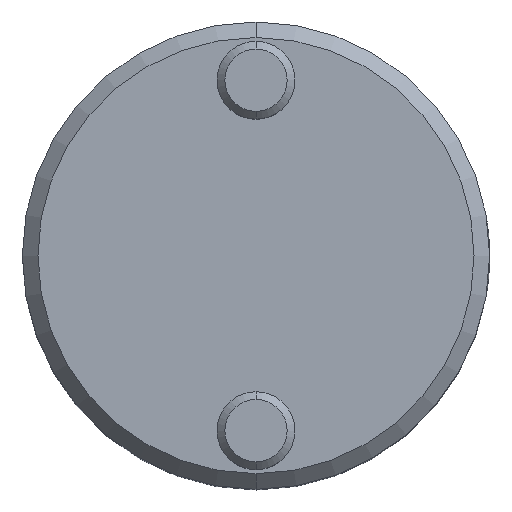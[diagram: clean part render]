
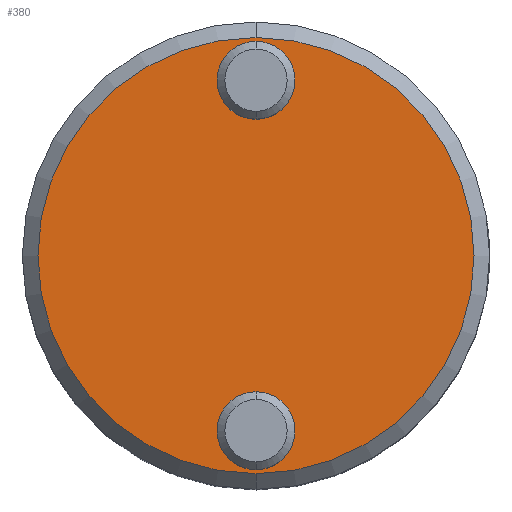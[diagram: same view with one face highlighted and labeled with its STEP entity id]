
A CAD part, top view. The second image highlights one B-rep face of the part: STEP entity #380.
In plain terms, the highlighted planar face has unit normal (0, 0, 1).
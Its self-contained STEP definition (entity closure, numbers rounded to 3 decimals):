
#1=CARTESIAN_POINT('',(0.,0.,0.));
#2=DIRECTION('',(0.,0.,1.));
#3=DIRECTION('',(0.,1.,0.));
#4=AXIS2_PLACEMENT_3D('',#1,#2,#3);
#6=CARTESIAN_POINT('',(0.,0.,
0.));
#7=DIRECTION('',(0.,0.,1.));
#8=DIRECTION('',(0.,-1.,0.));
#9=AXIS2_PLACEMENT_3D('',#6,#7,#8);
#11=CARTESIAN_POINT('',(0.,11.25,0.));
#12=DIRECTION('',(0.,0.,1.));
#13=DIRECTION('',(0.,1.,0.));
#14=AXIS2_PLACEMENT_3D('',#11,#12,#13);
#16=CARTESIAN_POINT('',(0.,11.25,0.));
#17=DIRECTION('',(0.,0.,1.));
#18=DIRECTION('',(0.,-1.,0.));
#19=AXIS2_PLACEMENT_3D('',#16,#17,#18);
#21=CARTESIAN_POINT('',(0.,-11.25,0.));
#22=DIRECTION('',(0.,0.,1.));
#23=DIRECTION('',(0.,1.,0.));
#24=AXIS2_PLACEMENT_3D('',#21,#22,#23);
#26=CARTESIAN_POINT('',(0.,-11.25,0.));
#27=DIRECTION('',(0.,0.,1.));
#28=DIRECTION('',(0.,-1.,0.));
#29=AXIS2_PLACEMENT_3D('',#26,#27,#28);
#307=CARTESIAN_POINT('',(0.,14.,0.));
#308=CARTESIAN_POINT('',(0.,-14.,0.));
#309=VERTEX_POINT('',#307);
#310=VERTEX_POINT('',#308);
#333=CARTESIAN_POINT('',(0.,13.75,0.));
#334=CARTESIAN_POINT('',(0.,8.75,0.));
#335=VERTEX_POINT('',#333);
#336=VERTEX_POINT('',#334);
#337=CARTESIAN_POINT('',(0.,-8.75,0.));
#338=CARTESIAN_POINT('',(0.,-13.75,0.));
#339=VERTEX_POINT('',#337);
#340=VERTEX_POINT('',#338);
#357=CARTESIAN_POINT('',(0.,0.,0.));
#358=DIRECTION('',(0.,0.,-1.));
#359=DIRECTION('',(0.,-1.,0.));
#360=AXIS2_PLACEMENT_3D('',#357,#358,#359);
#361=PLANE('',#360);
#363=ORIENTED_EDGE('',*,*,#362,.F.);
#365=ORIENTED_EDGE('',*,*,#364,.F.);
#366=EDGE_LOOP('',(#363,#365));
#367=FACE_OUTER_BOUND('',#366,.F.);
#369=ORIENTED_EDGE('',*,*,#368,.T.);
#371=ORIENTED_EDGE('',*,*,#370,.T.);
#372=EDGE_LOOP('',(#369,#371));
#373=FACE_BOUND('',#372,.F.);
#375=ORIENTED_EDGE('',*,*,#374,.T.);
#377=ORIENTED_EDGE('',*,*,#376,.T.);
#378=EDGE_LOOP('',(#375,#377));
#379=FACE_BOUND('',#378,.F.);
#380=ADVANCED_FACE('',(#367,#373,#379),#361,.F.);
#5=CIRCLE('',#4,14.);
#10=CIRCLE('',#9,14.);
#15=CIRCLE('',#14,2.5);
#20=CIRCLE('',#19,2.5);
#25=CIRCLE('',#24,2.5);
#30=CIRCLE('',#29,2.5);
#362=EDGE_CURVE('',#309,#310,#5,.T.);
#364=EDGE_CURVE('',#310,#309,#10,.T.);
#368=EDGE_CURVE('',#335,#336,#15,.T.);
#370=EDGE_CURVE('',#336,#335,#20,.T.);
#374=EDGE_CURVE('',#339,#340,#25,.T.);
#376=EDGE_CURVE('',#340,#339,#30,.T.);
